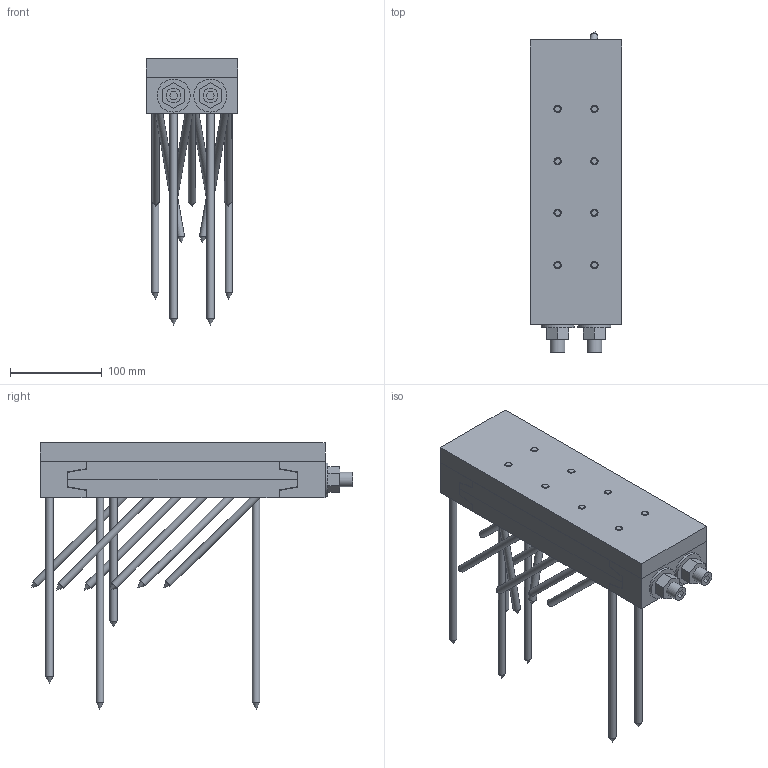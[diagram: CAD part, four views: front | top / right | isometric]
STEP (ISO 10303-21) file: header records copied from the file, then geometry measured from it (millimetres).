
FILE_DESCRIPTION(/* description */ ('Unknown'),/* implementation_level */ '2;1');
FILE_NAME(/* name */ 'MEGANT_310x100x40_Holz-Stahlanschluss_Verdeckt',/* time_stamp */ '2022-02-22T12:22:21+01:00',/* author */ ('Unknown'),/* organization */ ('Unknown'),/* preprocessor_version */ 'ST-DEVELOPER v16.7',/* originating_system */ 'Solid Edge',/* authorisation */ 'Unknown');
FILE_SCHEMA (('AUTOMOTIVE_DESIGN {1 0 10303 214 3 1 1}'));
Length unit declared in the file: millimetre
Products named in the file (16): MEGANT_310x100x40_Holz-Stahlanschluss_Verdeckt; Verbinderplatte_250x100x20_NT; Verbinderplatte_250x100x20; SK_Schraube_8x240; SK_Schraube_8x160; Verbinderplatte_250x100x20_HT_Stahlanschluss_8xSKM8x30; Verbinderplatte_250x100x20_Stahlanschluss_8xM8x30; SK_M8x30; Spannbacke_oben_100x50x40; Spannbacke_unten_100x50x40_NT; Spannbacke_unten_100x50x40; Stahlplatte_310x100x20_8xSKM8x25; Gewindestange_M16_L340; Beilagscheibe_M16; Mutter_M16
Assembly tree (38 placements, depth 3):
  MEGANT_310x100x40_Holz-Stahlanschluss_Verdeckt
    Verbinderplatte_250x100x20_NT
      Verbinderplatte_250x100x20
      SK_Schraube_8x240  x4
      SK_Schraube_8x160  x11
    Verbinderplatte_250x100x20_HT_Stahlanschluss_8xSKM8x30
      Verbinderplatte_250x100x20_Stahlanschluss_8xM8x30
      SK_M8x30  x8
    Spannbacke_oben_100x50x40
    Spannbacke_unten_100x50x40_NT
      Spannbacke_unten_100x50x40
      SK_Schraube_8x240  x2
    Stahlplatte_310x100x20_8xSKM8x25
    Gewindestange_M16_L340  x2
      Gewindestange_M16_L340
      Beilagscheibe_M16
      Mutter_M16
Bounding box: 100 x 349.49 x 290.1 mm (x, y, z)
Volume: 1921152.3 mm3; surface area: 430127.8 mm2
Topology: 36 solids, 36 shells, 467 faces, 1123 edges, 721 vertices
Faces by surface type: plane 217, cylinder 162, cone 88
Full cylindrical faces by diameter (mm): 6.647 x16, 8 x25, 8.5 x38, 13.835 x2, 14 x2, 15 x55, 16 x10, 17 x4, 36 x2
Entity records: 9837 total; most frequent: DIRECTION 1606, CARTESIAN_POINT 1514, ORIENTED_EDGE 1294, EDGE_CURVE 647, AXIS2_PLACEMENT_3D 593, FACE_BOUND 590, EDGE_LOOP 588, VERTEX_POINT 501
